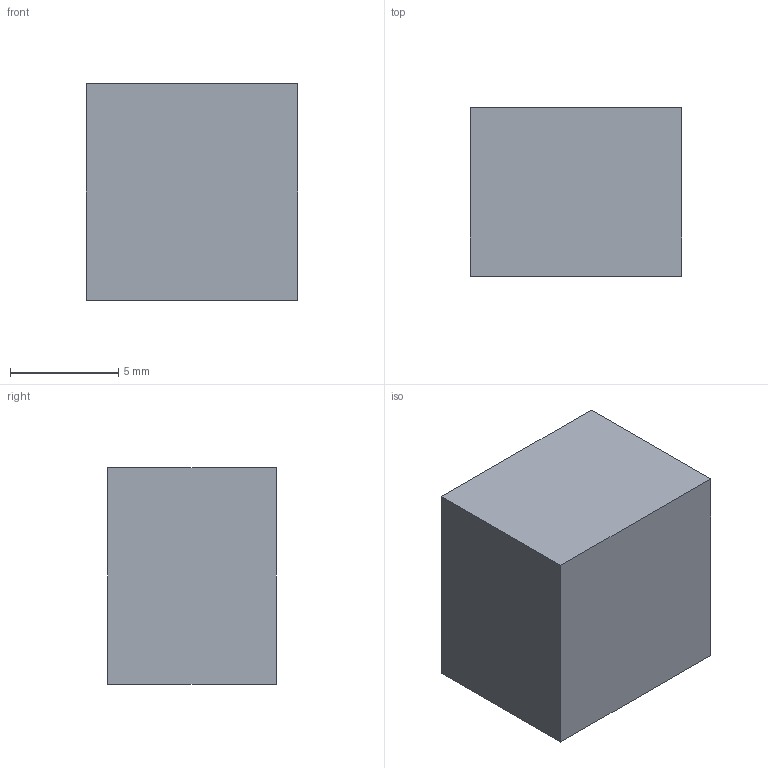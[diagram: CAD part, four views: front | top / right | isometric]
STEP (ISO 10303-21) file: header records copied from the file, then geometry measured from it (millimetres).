
FILE_DESCRIPTION(('Touch-proof 1.5 mm safety socket to DIN 42802 (Staubli LB-I1,5 class) -- body envelope 10.00 mm tall (ASSUMED: no qualified part exists (AVL-EEG-017 section 1.4.1))'),'2;1');
FILE_NAME('DIN42802_1p5mm_Socket','2026-09-08T00:00:00',('TI One Voice research programme'),(''),'EEG-CAR-01 step_write.py','','CC BY-SA 4.0');
FILE_SCHEMA(('AUTOMOTIVE_DESIGN { 1 0 10303 214 1 1 1 1 }'));
Length unit declared in the file: millimetre
Products named in the file (1): DIN42802_1p5mm_Socket
Bounding box: 9.8 x 7.8 x 10 mm (x, y, z)
Volume: 764.4 mm3; surface area: 504.9 mm2
Topology: 1 solids, 1 shells, 6 faces, 12 edges, 8 vertices
Faces by surface type: plane 6
Entity records: 67 total; most frequent: DIRECTION 14, CARTESIAN_POINT 9, AXIS2_PLACEMENT_3D 7, POLY_LOOP 6, FACE_OUTER_BOUND 6, PLANE 6, FACE_SURFACE 6, UNCERTAINTY_MEASURE_WITH_UNIT 1
